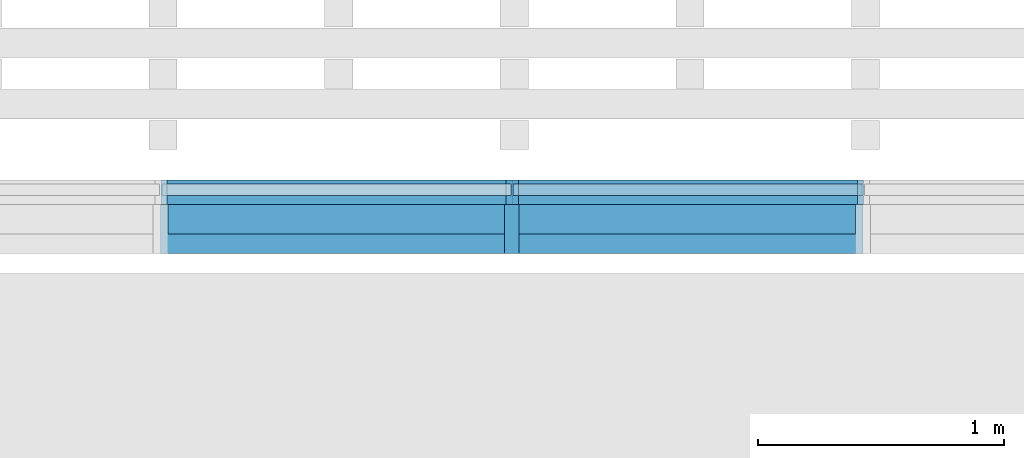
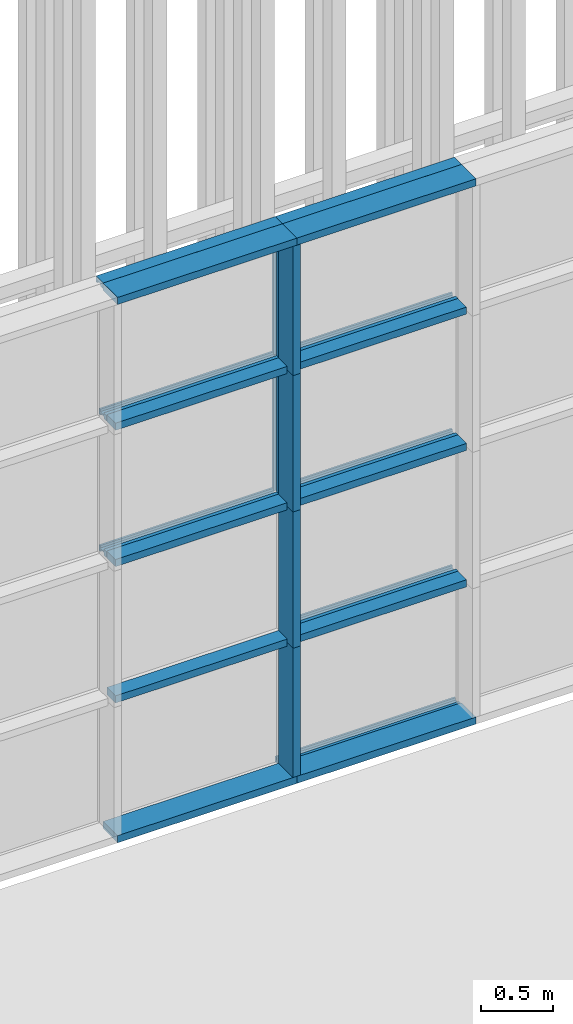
# One storey, part 36 of 260: 24 members, 2 elements without a shape of their own.
"""IFC2X3 building model written with IfcOpenShell, lengths in millimetres."""

import ifcopenshell
import ifcopenshell.guid

model = None  # the IFC model being written
_history = None  # IfcOwnerHistory: only IFC2X3 demands one
_inside = {}  # id of a spatial element -> (the spatial element, [elements in it])
_under = {}  # id of a project, library or spatial element -> (it, [spatial elements below it])
_declared = {}  # id of a project -> (the project, [libraries it declares])
_typed = {}  # id of a type object -> (the type object, [elements of that type])
_made_of = {}  # id of a material, layer set ... -> (it, [elements and type objects made of it])


def new_model(schema):
    """Start an empty IFC model of exactly this schema.

    Asked for "IFC4X3", IfcOpenShell would pick the latest addendum, in which some entities
    have other attributes; the version numbers below select the first issue.
    IFC2X3 requires an IfcOwnerHistory on every rooted entity: one is made here for all.
    """
    global model, _history
    if schema == "IFC4X3":
        model = ifcopenshell.file(schema_version=(4, 3, 0, 0))
    else:
        model = ifcopenshell.file(schema=schema)
    _inside.clear()
    _under.clear()
    _declared.clear()
    _typed.clear()
    _made_of.clear()
    _history = None
    if model.schema == "IFC2X3":
        org = make("IfcOrganization", Name="unknown")
        user = make(
            "IfcPersonAndOrganization",
            ThePerson=make("IfcPerson", FamilyName="unknown"),
            TheOrganization=org,
        )
        app = make(
            "IfcApplication",
            ApplicationDeveloper=org,
            Version="unknown",
            ApplicationFullName="unknown",
            ApplicationIdentifier="unknown",
        )
        _history = make(
            "IfcOwnerHistory",
            OwningUser=user,
            OwningApplication=app,
            ChangeAction="ADDED",
            CreationDate=0,
        )
    return model


def make(cls, **values):
    """One entity of the class cls with the attributes given. An attribute that is None is left unset."""
    return model.create_entity(
        cls, **{name: value for name, value in values.items() if value is not None}
    )


def entity(cls, *values):
    """Any entity or typed value of the class cls, its attributes in the order of the schema. None: left unset."""
    e = model.create_entity(cls)
    for i, value in enumerate(values):
        if value is not None:
            e[i] = value
    return e


def rooted(cls, **values):
    """An entity with a GlobalId (a new one), such as an element, a storey or a relation."""
    return make(cls, GlobalId=ifcopenshell.guid.new(), OwnerHistory=_history, **values)


def si_unit(unit_type, name, prefix=None):
    """IfcSIUnit, for example si_unit("LENGTHUNIT", "METRE", prefix="MILLI")."""
    return make("IfcSIUnit", UnitType=unit_type, Prefix=prefix, Name=name)


def converted_unit(unit_type, name, factor, base, dimensions=None, offset=None):
    """IfcConversionBasedUnit, such as the inch: factor (a typed value) times the base unit."""
    return make(
        "IfcConversionBasedUnit"
        if offset is None
        else "IfcConversionBasedUnitWithOffset",
        ConversionOffset=offset,
        Dimensions=None
        if dimensions is None
        else entity("IfcDimensionalExponents", *dimensions),
        UnitType=unit_type,
        Name=name,
        ConversionFactor=make(
            "IfcMeasureWithUnit", ValueComponent=factor, UnitComponent=base
        ),
    )


def derived_unit(unit_type, elements):
    """IfcDerivedUnit: a product of units, each with its exponent."""
    return make(
        "IfcDerivedUnit",
        Elements=[
            make("IfcDerivedUnitElement", Unit=unit, Exponent=power)
            for unit, power in elements
        ],
        UnitType=unit_type,
    )


def money_unit(currency):
    """IfcMonetaryUnit."""
    return make("IfcMonetaryUnit", Currency=currency)


def assignment(units):
    """IfcUnitAssignment: the units of a project."""
    return None if units is None else make("IfcUnitAssignment", Units=units)


def point(xyz):
    """IfcCartesianPoint."""
    return None if xyz is None else make("IfcCartesianPoint", Coordinates=xyz)


def direction(xyz):
    """IfcDirection."""
    return None if xyz is None else make("IfcDirection", DirectionRatios=xyz)


def frame(location, z_axis=None, x_axis=None):
    """IfcAxis2Placement3D, a coordinate frame: its origin and axes. An axis left out is left unset."""
    return make(
        "IfcAxis2Placement3D",
        Location=point(location),
        Axis=direction(z_axis),
        RefDirection=direction(x_axis),
    )


def origin_with_axes():
    """The frame at (0, 0, 0) with the z axis (0, 0, 1) and the x axis (1, 0, 0) written out."""
    return frame((0.0, 0.0, 0.0), z_axis=(0.0, 0.0, 1.0), x_axis=(1.0, 0.0, 0.0))


def place(relative_to, where):
    """IfcLocalPlacement: puts the frame where relative to a parent placement (None: the world)."""
    return make(
        "IfcLocalPlacement", PlacementRelTo=relative_to, RelativePlacement=where
    )


def context(
    kind, dimensions, precision=None, world=None, true_north=None, identifier=None
):
    """IfcGeometricRepresentationContext, for example the 3D "Model" context."""
    return make(
        "IfcGeometricRepresentationContext",
        ContextIdentifier=identifier,
        ContextType=kind,
        CoordinateSpaceDimension=dimensions,
        Precision=precision,
        WorldCoordinateSystem=world,
        TrueNorth=true_north,
    )


def subcontext(parent, identifier, kind, view, scale=None):
    """IfcGeometricRepresentationSubContext, for example "Body" below "Model"."""
    return make(
        "IfcGeometricRepresentationSubContext",
        ContextIdentifier=identifier,
        ContextType=kind,
        ParentContext=parent,
        TargetScale=scale,
        TargetView=view,
    )


def project(units=None, contexts=None):
    """IfcProject with its units and contexts."""
    return rooted(
        "IfcProject",
        Name="project",
        RepresentationContexts=contexts,
        UnitsInContext=assignment(units),
    )


def spatial(cls, under=None, at=None, **own):
    """A site, building, storey or space (cls), placed at a placement, below another one or the project."""
    s = rooted(cls, ObjectPlacement=at, **own)
    if under is not None:
        _under.setdefault(under.id(), (under, []))[1].append(s)
    return s


def faces_of(points, faces, orient=None, outer=None):
    """IfcFace entities. A face is a list of loops; a loop is a list of indices into points, from 0.

    orient and outer hold one flag for each loop. By default every Orientation is true, the
    first loop of a face is its IfcFaceOuterBound and the others are IfcFaceBound.
    """
    made = []
    for i, loops in enumerate(faces):
        bounds = []
        for j, loop in enumerate(loops):
            is_outer = j == 0 if outer is None else outer[i][j]
            bounds.append(
                make(
                    "IfcFaceOuterBound" if is_outer else "IfcFaceBound",
                    Bound=make("IfcPolyLoop", Polygon=[points[k] for k in loop]),
                    Orientation=True if orient is None else orient[i][j],
                )
            )
        made.append(make("IfcFace", Bounds=bounds))
    return made


def faceted_brep(points, faces, orient=None, outer=None, voids=None):
    """IfcFacetedBrep: a solid bounded by flat faces; with voids (closed shells), ...WithVoids."""
    shared = [point(p) for p in points]
    hull = make("IfcClosedShell", CfsFaces=faces_of(shared, faces, orient, outer))
    if voids is None:
        return make("IfcFacetedBrep", Outer=hull)
    return make(
        "IfcFacetedBrepWithVoids",
        Outer=hull,
        Voids=[
            make(cls, CfsFaces=faces_of(shared, fs, o, b)) for cls, fs, o, b in voids
        ],
    )


def shape(context_of_items, identifier, shape_type, items):
    """IfcShapeRepresentation: the items that make up one representation, for example the "Body"."""
    return make(
        "IfcShapeRepresentation",
        ContextOfItems=context_of_items,
        RepresentationIdentifier=identifier,
        RepresentationType=shape_type,
        Items=items,
    )


def source(mapping_origin, context_of_items, identifier, shape_type, items):
    """IfcRepresentationMap: a shape defined once, which mapped items show again and again."""
    return make(
        "IfcRepresentationMap",
        MappingOrigin=mapping_origin,
        MappedRepresentation=shape(context_of_items, identifier, shape_type, items),
    )


def transform(
    local_origin,
    x_axis=None,
    y_axis=None,
    z_axis=None,
    scale=None,
    scale2=None,
    scale3=None,
    uniform=True,
):
    """IfcCartesianTransformationOperator3D, or its non-uniform kind. x_axis, y_axis, z_axis: its Axis1, 2, 3."""
    if uniform:
        return make(
            "IfcCartesianTransformationOperator3D",
            Axis1=direction(x_axis),
            Axis2=direction(y_axis),
            LocalOrigin=point(local_origin),
            Scale=scale,
            Axis3=direction(z_axis),
        )
    return make(
        "IfcCartesianTransformationOperator3DnonUniform",
        Axis1=direction(x_axis),
        Axis2=direction(y_axis),
        LocalOrigin=point(local_origin),
        Scale=scale,
        Axis3=direction(z_axis),
        Scale2=scale2,
        Scale3=scale3,
    )


def mapped(mapping_source, mapping_target):
    """IfcMappedItem: shows the shape of a source again, moved by a transform."""
    return make(
        "IfcMappedItem", MappingSource=mapping_source, MappingTarget=mapping_target
    )


def material(Name=None, Category=None):
    """IfcMaterial."""
    return make("IfcMaterial", Name=Name, Category=Category)


def made_of(thing, what):
    """Note that an element or type object is made of a material, layer set ...; save() writes the relation."""
    if what is not None:
        _made_of.setdefault(what.id(), (what, []))[1].append(thing)
    return thing


def type_object(cls, material=None, **own):
    """A type object (cls), such as IfcWallType, which elements share."""
    return made_of(rooted(cls, **own), material)


def element(
    cls,
    number,
    at=None,
    inside=None,
    cuts=None,
    type_object=None,
    material=None,
    context=None,
    identifier="Body",
    shape_type=None,
    held_by="IfcProductDefinitionShape",
    body=None,
    shapes=None,
    **own,
):
    """One element of the class cls, such as IfcWall. Its Tag is "e" and its number.

    at: its placement. inside: the storey or other place that contains it. cuts: it is an
    opening in that element (IfcRelVoidsElement). A single representation is given by context,
    identifier, shape_type and body (its items); several are given by shapes. held_by: the class
    of the entity that holds the representations. save() writes the other relations.
    """
    e = rooted(cls, Tag="e%d" % number, ObjectPlacement=at, **own)
    if body is not None:
        shapes = [shape(context, identifier, shape_type, body)]
    if shapes is not None:
        e.Representation = make(held_by, Representations=shapes)
    if inside is not None:
        _inside.setdefault(inside.id(), (inside, []))[1].append(e)
    if cuts is not None:
        rooted(
            "IfcRelVoidsElement", RelatingBuildingElement=cuts, RelatedOpeningElement=e
        )
    if type_object is not None:
        _typed.setdefault(type_object.id(), (type_object, []))[1].append(e)
    return made_of(e, material)


def aggregate(whole, parts):
    """IfcRelAggregates: a whole, such as a stair, and the parts it consists of."""
    return rooted("IfcRelAggregates", RelatingObject=whole, RelatedObjects=parts)


def save(model, path):
    """Write the relations noted so far, then the file.

    IfcRelAggregates (storeys below a building ...), IfcRelContainedInSpatialStructure (elements
    in a storey), IfcRelDefinesByType, IfcRelAssociatesMaterial and IfcRelDeclares: one each for
    every whole, place, type object, material and project.
    """
    for whole, parts in _under.values():
        aggregate(whole, parts)
    for where, things in _inside.values():
        rooted(
            "IfcRelContainedInSpatialStructure",
            RelatedElements=things,
            RelatingStructure=where,
        )
    for kind, things in _typed.values():
        rooted("IfcRelDefinesByType", RelatedObjects=things, RelatingType=kind)
    for what, things in _made_of.values():
        rooted("IfcRelAssociatesMaterial", RelatedObjects=things, RelatingMaterial=what)
    for by, libraries in _declared.values():
        rooted("IfcRelDeclares", RelatingContext=by, RelatedDefinitions=libraries)
    model.write(path)


model = new_model("IFC2X3")

# Units and contexts
model_context = context("Model", 3, precision=0.01, world=origin_with_axes(), true_north=direction((0.0, 1.0)))
body_context = subcontext(model_context, "Body", "Model", "MODEL_VIEW")
ifc_project = project(units=[si_unit("LENGTHUNIT", "METRE", prefix="MILLI"), si_unit("AREAUNIT", "SQUARE_METRE"), si_unit("VOLUMEUNIT", "CUBIC_METRE"), converted_unit("PLANEANGLEUNIT", "DEGREE", entity("IfcPlaneAngleMeasure", 0.0174532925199), si_unit("PLANEANGLEUNIT", "RADIAN"), dimensions=[0, 0, 0, 0, 0, 0, 0]), money_unit("EUR"), converted_unit("TIMEUNIT", "Year", entity("IfcTimeMeasure", 31556926.0), si_unit("TIMEUNIT", "SECOND"), dimensions=[0, 0, 1, 0, 0, 0, 0]), si_unit("MASSUNIT", "GRAM", prefix="KILO"), si_unit("THERMODYNAMICTEMPERATUREUNIT", "DEGREE_CELSIUS"), si_unit("LUMINOUSINTENSITYUNIT", "LUMEN"), si_unit("ENERGYUNIT", "JOULE", prefix="MEGA"), derived_unit("THERMALCONDUCTANCEUNIT", [(si_unit("POWERUNIT", "WATT"), 1), (si_unit("LENGTHUNIT", "METRE"), -1), (si_unit("THERMODYNAMICTEMPERATUREUNIT", "KELVIN"), -1)]), derived_unit("SPECIFICHEATCAPACITYUNIT", [(si_unit("ENERGYUNIT", "JOULE"), 1), (si_unit("MASSUNIT", "GRAM", prefix="KILO"), -1), (si_unit("THERMODYNAMICTEMPERATUREUNIT", "KELVIN"), -1)]), derived_unit("MASSDENSITYUNIT", [(si_unit("MASSUNIT", "GRAM", prefix="KILO"), 1), (si_unit("VOLUMEUNIT", "CUBIC_METRE"), -1)])], contexts=[model_context])

# Site, building, storey
site_placement = place(None, origin_with_axes())
site = spatial("IfcSite", under=ifc_project, at=site_placement, Name="Kolde pst 67a", CompositionType="ELEMENT")
building_placement = place(site_placement, origin_with_axes())
building = spatial("IfcBuilding", under=site, at=building_placement, Name="Riigigümnaasium", CompositionType="ELEMENT")
storey_placement = place(building_placement, origin_with_axes())
storey = spatial("IfcBuildingStorey", under=building, at=storey_placement, Name="1. korrus", CompositionType="ELEMENT", Elevation=0.0)

# Curtain wall, members
curtain_wall_type = type_object("IfcCurtainWallType", Name="Curtain Wall Type", PredefinedType="NOTDEFINED")
curtain_wall_1_placement = place(storey_placement, frame((10366.0828546, 84639.9999608, 0.0), z_axis=(0.0, 0.0, 1.0), x_axis=(1.0, 0.0, 0.0)))
curtain_wall_1 = element("IfcCurtainWall", 1, at=curtain_wall_1_placement, inside=storey, type_object=curtain_wall_type, Name="KLAASFASSAAD")
ifc_material_1 = material(Name="_METALL - alumiinium")
member_type_1 = type_object("IfcMemberType", Name="Boundary Frame 50 x 100", PredefinedType="MEMBER")
shared_shape_1 = source(origin_with_axes(), body_context, "Body", "Brep", [
    faceted_brep([(-30.0, -24.0, 1430.0), (-50.0, -24.0, 1430.0), (-50.0, -60.0, 1430.0), (0.0, -60.0, 1430.0), (0.0, 40.0, 1430.0), (-50.0, 40.0, 1430.0), (-50.0, 24.0, 1430.0), (-30.0, 24.0, 1430.0), (-30.0, -24.0, 0.0), (-50.0, -24.0, 0.0), (-50.0, -60.0, 0.0), (0.0, -60.0, 0.0), (0.0, 40.0, 0.0), (-50.0, 40.0, 0.0), (-50.0, 24.0, 0.0), (-30.0, 24.0, 0.0)], [[[0, 1, 2, 3, 4, 5, 6, 7]], [[0, 8, 9, 1]], [[9, 10, 2, 1]], [[10, 11, 3, 2]], [[11, 12, 4, 3]], [[12, 13, 5, 4]], [[6, 5, 13, 14]], [[14, 15, 7, 6]], [[7, 15, 8, 0]], [[8, 15, 14, 13, 12, 11, 10, 9]]]),
])
member_1_placement = place(curtain_wall_1_placement, frame((19305.0, 0.0, 0.0), z_axis=(1.0, 0.0, 0.0), x_axis=(0.0, 0.0, 1.0)))
member_1 = element("IfcMember", 2, at=member_1_placement, type_object=member_type_1, material=ifc_material_1, Name="RF RAAM SERV-090", ObjectType="MEMBER", context=body_context, shape_type="MappedRepresentation", body=[
    mapped(shared_shape_1, transform((0.0, 0.0, 0.0), x_axis=(-1.0, 0.0, 0.0), y_axis=(0.0, -1.0, 0.0), z_axis=(0.0, 0.0, 1.0))),
])
member_type_2 = type_object("IfcMemberType", Name="Transom Frame 50 x 100", PredefinedType="MEMBER")
shared_shape_2 = source(origin_with_axes(), body_context, "Body", "Brep", [
    faceted_brep([(5.0, -24.0, 1405.0), (5.0, 24.0, 1405.0), (25.0, 24.0, 1405.0), (25.0, 40.0, 1405.0), (-25.0, 40.0, 1405.0), (-25.0, 24.0, 1405.0), (-5.0, 24.0, 1405.0), (-5.0, -24.0, 1405.0), (-25.0, -24.0, 1405.0), (-25.0, -60.0, 1405.0), (25.0, -60.0, 1405.0), (25.0, -24.0, 1405.0), (5.0, -24.0, 25.0), (5.0, 24.0, 25.0), (25.0, 24.0, 25.0), (25.0, 40.0, 25.0), (-25.0, 40.0, 25.0), (-25.0, 24.0, 25.0), (-5.0, 24.0, 25.0), (-5.0, -24.0, 25.0), (-25.0, -24.0, 25.0), (-25.0, -60.0, 25.0), (25.0, -60.0, 25.0), (25.0, -24.0, 25.0)], [[[0, 1, 2, 3, 4, 5, 6, 7, 8, 9, 10, 11]], [[0, 12, 13, 1]], [[1, 13, 14, 2]], [[14, 15, 3, 2]], [[4, 3, 15, 16]], [[17, 5, 4, 16]], [[5, 17, 18, 6]], [[7, 6, 18, 19]], [[8, 7, 19, 20]], [[8, 20, 21, 9]], [[10, 9, 21, 22]], [[11, 10, 22, 23]], [[11, 23, 12, 0]], [[13, 12, 23, 22, 21, 20, 19, 18, 17, 16, 15, 14]]]),
])
member_2_placement = place(curtain_wall_1_placement, frame((19305.0, 0.0, 1150.0), z_axis=(1.0, 0.0, 0.0), x_axis=(0.0, 0.0, 1.0)))
member_2 = element("IfcMember", 3, at=member_2_placement, type_object=member_type_2, material=ifc_material_1, Name="RF RAAM HOR-798", ObjectType="MEMBER", context=body_context, shape_type="MappedRepresentation", body=[
    mapped(shared_shape_2, transform((0.0, 0.0, 0.0), x_axis=(-1.0, 0.0, 0.0), y_axis=(0.0, -1.0, 0.0), z_axis=(0.0, 0.0, 1.0))),
])
member_3_placement = place(curtain_wall_1_placement, frame((17875.0, 0.0, 2300.0), z_axis=(1.0, 0.0, 0.0), x_axis=(0.0, 0.0, 1.0)))
member_3 = element("IfcMember", 4, at=member_3_placement, type_object=member_type_2, material=ifc_material_1, Name="RF RAAM HOR-798", ObjectType="MEMBER", context=body_context, shape_type="MappedRepresentation", body=[
    mapped(shared_shape_2, transform((0.0, 0.0, 0.0), x_axis=(-1.0, 0.0, 0.0), y_axis=(0.0, -1.0, 0.0), z_axis=(0.0, 0.0, 1.0))),
])
member_4_placement = place(curtain_wall_1_placement, frame((19305.0, 0.0, 2300.0), z_axis=(1.0, 0.0, 0.0), x_axis=(0.0, 0.0, 1.0)))
member_4 = element("IfcMember", 5, at=member_4_placement, type_object=member_type_2, material=ifc_material_1, Name="RF RAAM HOR-798", ObjectType="MEMBER", context=body_context, shape_type="MappedRepresentation", body=[
    mapped(shared_shape_2, transform((0.0, 0.0, 0.0), x_axis=(-1.0, 0.0, 0.0), y_axis=(0.0, -1.0, 0.0), z_axis=(0.0, 0.0, 1.0))),
])
member_5_placement = place(curtain_wall_1_placement, frame((17875.0, 0.0, 3450.0), z_axis=(1.0, 0.0, 0.0), x_axis=(0.0, 0.0, 1.0)))
member_5 = element("IfcMember", 6, at=member_5_placement, type_object=member_type_2, material=ifc_material_1, Name="RF RAAM HOR-798", ObjectType="MEMBER", context=body_context, shape_type="MappedRepresentation", body=[
    mapped(shared_shape_2, transform((0.0, 0.0, 0.0), x_axis=(-1.0, 0.0, 0.0), y_axis=(0.0, -1.0, 0.0), z_axis=(0.0, 0.0, 1.0))),
])
member_6_placement = place(curtain_wall_1_placement, frame((19305.0, 0.0, 3450.0), z_axis=(1.0, 0.0, 0.0), x_axis=(0.0, 0.0, 1.0)))
member_6 = element("IfcMember", 7, at=member_6_placement, type_object=member_type_2, material=ifc_material_1, Name="RF RAAM HOR-798", ObjectType="MEMBER", context=body_context, shape_type="MappedRepresentation", body=[
    mapped(shared_shape_2, transform((0.0, 0.0, 0.0), x_axis=(-1.0, 0.0, 0.0), y_axis=(0.0, -1.0, 0.0), z_axis=(0.0, 0.0, 1.0))),
])
member_type_3 = type_object("IfcMemberType", Name="Mullion Frame 50 x 100", PredefinedType="MEMBER")
shared_shape_3 = source(origin_with_axes(), body_context, "Body", "Brep", [
    faceted_brep([(5.0, -24.0, 1150.0), (5.0, 24.0, 1150.0), (25.0, 24.0, 1150.0), (25.0, 40.0, 1150.0), (-25.0, 40.0, 1150.0), (-25.0, 24.0, 1150.0), (-5.0, 24.0, 1150.0), (-5.0, -24.0, 1150.0), (-25.0, -24.0, 1150.0), (-25.0, -60.0, 1150.0), (25.0, -60.0, 1150.0), (25.0, -24.0, 1150.0), (5.0, -24.0, 0.0), (5.0, 24.0, 0.0), (25.0, 24.0, 0.0), (25.0, 40.0, 0.0), (-25.0, 40.0, 0.0), (-25.0, 24.0, 0.0), (-5.0, 24.0, 0.0), (-5.0, -24.0, 0.0), (-25.0, -24.0, 0.0), (-25.0, -60.0, 0.0), (25.0, -60.0, 0.0), (25.0, -24.0, 0.0)], [[[0, 1, 2, 3, 4, 5, 6, 7, 8, 9, 10, 11]], [[0, 12, 13, 1]], [[1, 13, 14, 2]], [[14, 15, 3, 2]], [[3, 15, 16, 4]], [[17, 5, 4, 16]], [[5, 17, 18, 6]], [[7, 6, 18, 19]], [[8, 7, 19, 20]], [[8, 20, 21, 9]], [[9, 21, 22, 10]], [[11, 10, 22, 23]], [[11, 23, 12, 0]], [[13, 12, 23, 22, 21, 20, 19, 18, 17, 16, 15, 14]]]),
])
member_7_placement = place(curtain_wall_1_placement, frame((19305.0, 0.0, 2300.0), z_axis=(0.0, 0.0, 1.0), x_axis=(-1.0, 0.0, 0.0)))
member_7 = element("IfcMember", 8, at=member_7_placement, type_object=member_type_3, material=ifc_material_1, Name="RF RAAM VERT-904", ObjectType="MEMBER", context=body_context, shape_type="MappedRepresentation", body=[
    mapped(shared_shape_3, transform((0.0, 0.0, 0.0), x_axis=(-1.0, 0.0, 0.0), y_axis=(0.0, -1.0, 0.0), z_axis=(0.0, 0.0, 1.0))),
])
shared_shape_4 = source(origin_with_axes(), body_context, "Body", "Brep", [
    faceted_brep([(5.0, -24.0, 1100.0), (5.0, 24.0, 1100.0), (25.0, 24.0, 1100.0), (25.0, 40.0, 1100.0), (-25.0, 40.0, 1100.0), (-25.0, 24.0, 1100.0), (-5.0, 24.0, 1100.0), (-5.0, -24.0, 1100.0), (-25.0, -24.0, 1100.0), (-25.0, -60.0, 1100.0), (25.0, -60.0, 1100.0), (25.0, -24.0, 1100.0), (5.0, -24.0, 0.0), (5.0, 24.0, 0.0), (25.0, 24.0, 0.0), (25.0, 40.0, 0.0), (-25.0, 40.0, 0.0), (-25.0, 24.0, 0.0), (-5.0, 24.0, 0.0), (-5.0, -24.0, 0.0), (-25.0, -24.0, 0.0), (-25.0, -60.0, 0.0), (25.0, -60.0, 0.0), (25.0, -24.0, 0.0)], [[[0, 1, 2, 3, 4, 5, 6, 7, 8, 9, 10, 11]], [[0, 12, 13, 1]], [[1, 13, 14, 2]], [[14, 15, 3, 2]], [[3, 15, 16, 4]], [[17, 5, 4, 16]], [[5, 17, 18, 6]], [[7, 6, 18, 19]], [[8, 7, 19, 20]], [[8, 20, 21, 9]], [[9, 21, 22, 10]], [[11, 10, 22, 23]], [[11, 23, 12, 0]], [[13, 12, 23, 22, 21, 20, 19, 18, 17, 16, 15, 14]]]),
])
member_8_placement = place(curtain_wall_1_placement, frame((19305.0, 0.0, 3450.0), z_axis=(0.0, 0.0, 1.0), x_axis=(-1.0, 0.0, 0.0)))
member_8 = element("IfcMember", 9, at=member_8_placement, type_object=member_type_3, material=ifc_material_1, Name="RF RAAM VERT-238", ObjectType="MEMBER", context=body_context, shape_type="MappedRepresentation", body=[
    mapped(shared_shape_4, transform((0.0, 0.0, 0.0), x_axis=(-1.0, 0.0, 0.0), y_axis=(0.0, -1.0, 0.0), z_axis=(0.0, 0.0, 1.0))),
])
shared_shape_5 = source(origin_with_axes(), body_context, "Body", "Brep", [
    faceted_brep([(30.0, -24.0, 1430.0), (30.0, 24.0, 1430.0), (50.0, 24.0, 1430.0), (50.0, 40.0, 1430.0), (0.0, 40.0, 1430.0), (0.0, -60.0, 1430.0), (50.0, -60.0, 1430.0), (50.0, -24.0, 1430.0), (30.0, -24.0, 0.0), (30.0, 24.0, 0.0), (50.0, 24.0, 0.0), (50.0, 40.0, 0.0), (0.0, 40.0, 0.0), (0.0, -60.0, 0.0), (50.0, -60.0, 0.0), (50.0, -24.0, 0.0)], [[[0, 1, 2, 3, 4, 5, 6, 7]], [[1, 0, 8, 9]], [[10, 2, 1, 9]], [[2, 10, 11, 3]], [[12, 4, 3, 11]], [[13, 5, 4, 12]], [[14, 6, 5, 13]], [[15, 7, 6, 14]], [[0, 7, 15, 8]], [[8, 15, 14, 13, 12, 11, 10, 9]]]),
])
member_9_placement = place(curtain_wall_1_placement, frame((17875.0, 0.0, 4600.0), z_axis=(1.0, 0.0, 0.0), x_axis=(0.0, 0.0, 1.0)))
member_9 = element("IfcMember", 10, at=member_9_placement, type_object=member_type_1, material=ifc_material_1, Name="RF RAAM SERV-104", ObjectType="MEMBER", context=body_context, shape_type="MappedRepresentation", body=[
    mapped(shared_shape_5, transform((0.0, 0.0, 0.0), x_axis=(-1.0, 0.0, 0.0), y_axis=(0.0, -1.0, 0.0), z_axis=(0.0, 0.0, 1.0))),
])
member_10_placement = place(curtain_wall_1_placement, frame((19305.0, 0.0, 4600.0), z_axis=(1.0, 0.0, 0.0), x_axis=(0.0, 0.0, 1.0)))
member_10 = element("IfcMember", 11, at=member_10_placement, type_object=member_type_1, material=ifc_material_1, Name="RF RAAM SERV-103", ObjectType="MEMBER", context=body_context, shape_type="MappedRepresentation", body=[
    mapped(shared_shape_5, transform((0.0, 0.0, 0.0), x_axis=(-1.0, 0.0, 0.0), y_axis=(0.0, -1.0, 0.0), z_axis=(0.0, 0.0, 1.0))),
])
aggregate(curtain_wall_1, [member_1, member_2, member_3, member_4, member_7, member_5, member_6, member_8, member_9, member_10])

curtain_wall_2_placement = place(storey_placement, frame((7516.12873899, 84579.9999608, 0.0), z_axis=(0.0, 0.0, 1.0), x_axis=(1.0, 0.0, 0.0)))
curtain_wall_2 = element("IfcCurtainWall", 12, at=curtain_wall_2_placement, inside=storey, type_object=curtain_wall_type, Name="Klaasfassaadi puitkarkass")
ifc_material_2 = material(Name="_KANDETARIND - liimpuit vastavalt EK osale")
member_type_4 = type_object("IfcMemberType", Name="Mullion Frame 60 x 200", PredefinedType="MEMBER")
shared_shape_6 = source(origin_with_axes(), body_context, "Body", "Brep", [
    faceted_brep([(-30.0, -200.0, 0.0), (-30.0, -200.0, 1090.0), (-30.0, 0.0, 1090.0), (-30.0, 0.0, 0.0), (30.0, -200.0, 0.0), (30.0, -200.0, 1090.0), (30.0, 0.0, 1090.0), (30.0, 0.0, 0.0)], [[[0, 1, 2, 3]], [[4, 5, 1, 0]], [[1, 5, 6, 2]], [[3, 2, 6, 7]], [[0, 3, 7, 4]], [[7, 6, 5, 4]]]),
])
member_11_placement = place(curtain_wall_2_placement, frame((22153.6284674, 0.0, 3450.0), z_axis=(0.0, 0.0, 1.0), x_axis=(-1.0, 0.0, 0.0)))
member_11 = element("IfcMember", 13, at=member_11_placement, type_object=member_type_4, material=ifc_material_2, Name="RF RAAM VERT-686", ObjectType="MEMBER", context=body_context, shape_type="MappedRepresentation", body=[
    mapped(shared_shape_6, transform((0.0, 0.0, 0.0), x_axis=(-1.0, 0.0, 0.0), y_axis=(0.0, -1.0, 0.0), z_axis=(0.0, 0.0, 1.0))),
])
member_type_5 = type_object("IfcMemberType", Name="Boundary Frame 60 x 200", PredefinedType="MEMBER")
shared_shape_7 = source(origin_with_axes(), body_context, "Body", "Brep", [
    faceted_brep([(-60.0, -200.0, 0.0), (-60.0, -200.0, 1430.0), (-60.0, 0.0, 1430.0), (-60.0, 0.0, 0.0), (0.0, -200.0, 0.0), (0.0, -200.0, 1430.0), (0.0, 0.0, 1430.0), (0.0, 0.0, 0.0)], [[[0, 1, 2, 3]], [[4, 5, 1, 0]], [[1, 5, 6, 2]], [[3, 2, 6, 7]], [[0, 3, 7, 4]], [[7, 6, 5, 4]]]),
])
member_12_placement = place(curtain_wall_2_placement, frame((20723.6284674, 0.0, 0.0), z_axis=(1.0, 0.0, 0.0), x_axis=(0.0, 0.0, 1.0)))
member_12 = element("IfcMember", 14, at=member_12_placement, type_object=member_type_5, material=ifc_material_2, Name="RF RAAM SERV-425", ObjectType="MEMBER", context=body_context, shape_type="MappedRepresentation", body=[
    mapped(shared_shape_7, transform((0.0, 0.0, 0.0), x_axis=(-1.0, 0.0, 0.0), y_axis=(0.0, -1.0, 0.0), z_axis=(0.0, 0.0, 1.0))),
])
member_13_placement = place(curtain_wall_2_placement, frame((22153.6284674, 0.0, 0.0), z_axis=(1.0, 0.0, 0.0), x_axis=(0.0, 0.0, 1.0)))
member_13 = element("IfcMember", 15, at=member_13_placement, type_object=member_type_5, material=ifc_material_2, Name="RF RAAM SERV-426", ObjectType="MEMBER", context=body_context, shape_type="MappedRepresentation", body=[
    mapped(shared_shape_7, transform((0.0, 0.0, 0.0), x_axis=(-1.0, 0.0, 0.0), y_axis=(0.0, -1.0, 0.0), z_axis=(0.0, 0.0, 1.0))),
])
shared_shape_8 = source(origin_with_axes(), body_context, "Body", "Brep", [
    faceted_brep([(-30.0, 0.0, 60.0), (-30.0, -200.0, 60.0), (-30.0, -200.0, 1150.0), (-30.0, 0.0, 1150.0), (30.0, 0.0, 60.0), (30.0, -200.0, 60.0), (30.0, -200.0, 1150.0), (30.0, 0.0, 1150.0)], [[[0, 1, 2, 3]], [[1, 0, 4, 5]], [[1, 5, 6, 2]], [[2, 6, 7, 3]], [[4, 0, 3, 7]], [[5, 4, 7, 6]]]),
])
member_14_placement = place(curtain_wall_2_placement, frame((22153.6284674, 0.0, 0.0), z_axis=(0.0, 0.0, 1.0), x_axis=(-1.0, 0.0, 0.0)))
member_14 = element("IfcMember", 16, at=member_14_placement, type_object=member_type_4, material=ifc_material_2, Name="RF RAAM VERT-471", ObjectType="MEMBER", context=body_context, shape_type="MappedRepresentation", body=[
    mapped(shared_shape_8, transform((0.0, 0.0, 0.0), x_axis=(-1.0, 0.0, 0.0), y_axis=(0.0, -1.0, 0.0), z_axis=(0.0, 0.0, 1.0))),
])
member_type_6 = type_object("IfcMemberType", Name="Transom Frame 60 x 120", PredefinedType="MEMBER")
shared_shape_9 = source(origin_with_axes(), body_context, "Body", "Brep", [
    faceted_brep([(-30.0, 0.0, 30.0), (-30.0, -120.0, 30.0), (-30.0, -120.0, 1400.0), (-30.0, 0.0, 1400.0), (30.0, 0.0, 30.0), (30.0, -120.0, 30.0), (30.0, -120.0, 1400.0), (30.0, 0.0, 1400.0)], [[[0, 1, 2, 3]], [[1, 0, 4, 5]], [[1, 5, 6, 2]], [[2, 6, 7, 3]], [[4, 0, 3, 7]], [[5, 4, 7, 6]]]),
])
member_15_placement = place(curtain_wall_2_placement, frame((20723.6284674, 0.0, 1150.0), z_axis=(1.0, 0.0, 0.0), x_axis=(0.0, 0.0, 1.0)))
member_15 = element("IfcMember", 17, at=member_15_placement, type_object=member_type_6, material=ifc_material_2, Name="RF RAAM HOR-465", ObjectType="MEMBER", context=body_context, shape_type="MappedRepresentation", body=[
    mapped(shared_shape_9, transform((0.0, 0.0, 0.0), x_axis=(-1.0, 0.0, 0.0), y_axis=(0.0, -1.0, 0.0), z_axis=(0.0, 0.0, 1.0))),
])
member_16_placement = place(curtain_wall_2_placement, frame((22153.6284674, 0.0, 1150.0), z_axis=(1.0, 0.0, 0.0), x_axis=(0.0, 0.0, 1.0)))
member_16 = element("IfcMember", 18, at=member_16_placement, type_object=member_type_6, material=ifc_material_2, Name="RF RAAM HOR-466", ObjectType="MEMBER", context=body_context, shape_type="MappedRepresentation", body=[
    mapped(shared_shape_9, transform((0.0, 0.0, 0.0), x_axis=(-1.0, 0.0, 0.0), y_axis=(0.0, -1.0, 0.0), z_axis=(0.0, 0.0, 1.0))),
])
member_17_placement = place(curtain_wall_2_placement, frame((20723.6284674, 0.0, 2300.0), z_axis=(1.0, 0.0, 0.0), x_axis=(0.0, 0.0, 1.0)))
member_17 = element("IfcMember", 19, at=member_17_placement, type_object=member_type_6, material=ifc_material_2, Name="RF RAAM HOR-488", ObjectType="MEMBER", context=body_context, shape_type="MappedRepresentation", body=[
    mapped(shared_shape_9, transform((0.0, 0.0, 0.0), x_axis=(-1.0, 0.0, 0.0), y_axis=(0.0, -1.0, 0.0), z_axis=(0.0, 0.0, 1.0))),
])
member_18_placement = place(curtain_wall_2_placement, frame((22153.6284674, 0.0, 2300.0), z_axis=(1.0, 0.0, 0.0), x_axis=(0.0, 0.0, 1.0)))
member_18 = element("IfcMember", 20, at=member_18_placement, type_object=member_type_6, material=ifc_material_2, Name="RF RAAM HOR-489", ObjectType="MEMBER", context=body_context, shape_type="MappedRepresentation", body=[
    mapped(shared_shape_9, transform((0.0, 0.0, 0.0), x_axis=(-1.0, 0.0, 0.0), y_axis=(0.0, -1.0, 0.0), z_axis=(0.0, 0.0, 1.0))),
])
member_19_placement = place(curtain_wall_2_placement, frame((20723.6284674, 0.0, 3450.0), z_axis=(1.0, 0.0, 0.0), x_axis=(0.0, 0.0, 1.0)))
member_19 = element("IfcMember", 21, at=member_19_placement, type_object=member_type_6, material=ifc_material_2, Name="RF RAAM HOR-511", ObjectType="MEMBER", context=body_context, shape_type="MappedRepresentation", body=[
    mapped(shared_shape_9, transform((0.0, 0.0, 0.0), x_axis=(-1.0, 0.0, 0.0), y_axis=(0.0, -1.0, 0.0), z_axis=(0.0, 0.0, 1.0))),
])
member_20_placement = place(curtain_wall_2_placement, frame((22153.6284674, 0.0, 3450.0), z_axis=(1.0, 0.0, 0.0), x_axis=(0.0, 0.0, 1.0)))
member_20 = element("IfcMember", 22, at=member_20_placement, type_object=member_type_6, material=ifc_material_2, Name="RF RAAM HOR-512", ObjectType="MEMBER", context=body_context, shape_type="MappedRepresentation", body=[
    mapped(shared_shape_9, transform((0.0, 0.0, 0.0), x_axis=(-1.0, 0.0, 0.0), y_axis=(0.0, -1.0, 0.0), z_axis=(0.0, 0.0, 1.0))),
])
shared_shape_10 = source(origin_with_axes(), body_context, "Body", "Brep", [
    faceted_brep([(-30.0, -200.0, 0.0), (-30.0, -200.0, 1150.0), (-30.0, 0.0, 1150.0), (-30.0, 0.0, 0.0), (30.0, -200.0, 0.0), (30.0, -200.0, 1150.0), (30.0, 0.0, 1150.0), (30.0, 0.0, 0.0)], [[[0, 1, 2, 3]], [[4, 5, 1, 0]], [[1, 5, 6, 2]], [[3, 2, 6, 7]], [[0, 3, 7, 4]], [[7, 6, 5, 4]]]),
])
member_21_placement = place(curtain_wall_2_placement, frame((22153.6284674, 0.0, 1150.0), z_axis=(0.0, 0.0, 1.0), x_axis=(-1.0, 0.0, 0.0)))
member_21 = element("IfcMember", 23, at=member_21_placement, type_object=member_type_4, material=ifc_material_2, Name="RF RAAM VERT-493", ObjectType="MEMBER", context=body_context, shape_type="MappedRepresentation", body=[
    mapped(shared_shape_10, transform((0.0, 0.0, 0.0), x_axis=(-1.0, 0.0, 0.0), y_axis=(0.0, -1.0, 0.0), z_axis=(0.0, 0.0, 1.0))),
])
member_22_placement = place(curtain_wall_2_placement, frame((22153.6284674, 0.0, 2300.0), z_axis=(0.0, 0.0, 1.0), x_axis=(-1.0, 0.0, 0.0)))
member_22 = element("IfcMember", 24, at=member_22_placement, type_object=member_type_4, material=ifc_material_2, Name="RF RAAM VERT-515", ObjectType="MEMBER", context=body_context, shape_type="MappedRepresentation", body=[
    mapped(shared_shape_10, transform((0.0, 0.0, 0.0), x_axis=(-1.0, 0.0, 0.0), y_axis=(0.0, -1.0, 0.0), z_axis=(0.0, 0.0, 1.0))),
])
shared_shape_11 = source(origin_with_axes(), body_context, "Body", "Brep", [
    faceted_brep([(60.0, -200.0, 0.0), (60.0, 0.0, 0.0), (60.0, 0.0, 1430.0), (60.0, -200.0, 1430.0), (0.0, -200.0, 0.0), (0.0, 0.0, 0.0), (0.0, 0.0, 1430.0), (0.0, -200.0, 1430.0)], [[[0, 1, 2, 3]], [[0, 4, 5, 1]], [[1, 5, 6, 2]], [[3, 2, 6, 7]], [[4, 0, 3, 7]], [[5, 4, 7, 6]]]),
])
member_23_placement = place(curtain_wall_2_placement, frame((20723.6284674, 0.0, 4600.0), z_axis=(1.0, 0.0, 0.0), x_axis=(0.0, 0.0, 1.0)))
member_23 = element("IfcMember", 25, at=member_23_placement, type_object=member_type_5, material=ifc_material_2, Name="RF RAAM SERV-440", ObjectType="MEMBER", context=body_context, shape_type="MappedRepresentation", body=[
    mapped(shared_shape_11, transform((0.0, 0.0, 0.0), x_axis=(-1.0, 0.0, 0.0), y_axis=(0.0, -1.0, 0.0), z_axis=(0.0, 0.0, 1.0))),
])
member_24_placement = place(curtain_wall_2_placement, frame((22153.6284674, 0.0, 4600.0), z_axis=(1.0, 0.0, 0.0), x_axis=(0.0, 0.0, 1.0)))
member_24 = element("IfcMember", 26, at=member_24_placement, type_object=member_type_5, material=ifc_material_2, Name="RF RAAM SERV-439", ObjectType="MEMBER", context=body_context, shape_type="MappedRepresentation", body=[
    mapped(shared_shape_11, transform((0.0, 0.0, 0.0), x_axis=(-1.0, 0.0, 0.0), y_axis=(0.0, -1.0, 0.0), z_axis=(0.0, 0.0, 1.0))),
])
aggregate(curtain_wall_2, [member_12, member_13, member_14, member_15, member_16, member_21, member_17, member_18, member_22, member_19, member_20, member_11, member_23, member_24])

save(model, "model.ifc")
